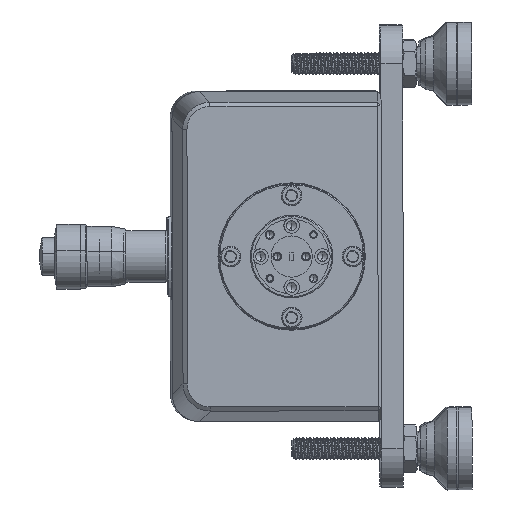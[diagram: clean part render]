
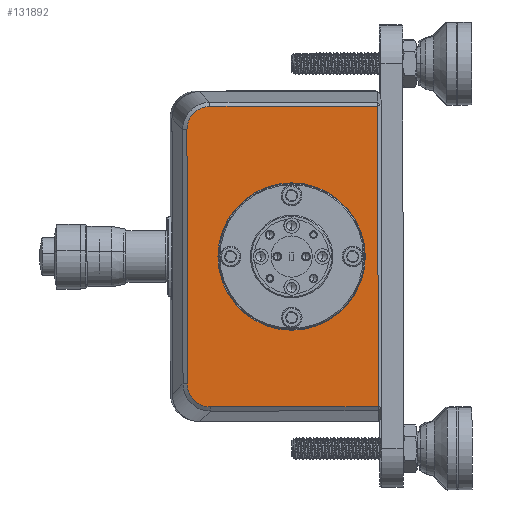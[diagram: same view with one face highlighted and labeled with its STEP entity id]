
A CAD part, left-side view. The second image highlights one B-rep face of the part: STEP entity #131892.
In plain terms, the highlighted planar face has unit normal (-1, -0.002, -0.001).
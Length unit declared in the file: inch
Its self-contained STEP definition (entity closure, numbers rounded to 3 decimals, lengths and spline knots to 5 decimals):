
#8398 = DIRECTION ( 'NONE',  ( -0.001, 0.001, 1. ) ) ;
#10396 = ORIENTED_EDGE ( 'NONE', *, *, #147818, .T. ) ;
#10920 = CARTESIAN_POINT ( 'NONE',  ( -3.34494, -6.84656, 0.04589 ) ) ;
#11293 = B_SPLINE_CURVE_WITH_KNOTS ( 'NONE', 3,
 ( #104573, #47437, #14483, #93341, #82042, #139042, #118108, #106076, #83517, #18946 ),
 .UNSPECIFIED., .F., .F.,
 ( 4, 2, 2, 2, 4 ),
 ( 0., 0.25, 0.5, 0.75, 1. ),
 .UNSPECIFIED. ) ;
#13634 = ORIENTED_EDGE ( 'NONE', *, *, #127069, .T. ) ;
#14483 = CARTESIAN_POINT ( 'NONE',  ( -3.34387, -6.6739, -2.53056 ) ) ;
#18946 = CARTESIAN_POINT ( 'NONE',  ( -3.34347, -6.87759, -2.68423 ) ) ;
#19289 = CARTESIAN_POINT ( 'NONE',  ( -3.34513, -6.67076, -0.10827 ) ) ;
#21706 = DIRECTION ( 'NONE',  ( 1., 0.002, 0.001 ) ) ;
#23336 = CARTESIAN_POINT ( 'NONE',  ( -3.34302, -7.61697, -1.31819 ) ) ;
#27245 = VECTOR ( 'NONE', #101456, 39.37008 ) ;
#32047 = AXIS2_PLACEMENT_3D ( 'NONE', #23336, #54818, #8398 ) ;
#32734 = EDGE_CURVE ( 'NONE', #94500, #85811, #96822, .T. ) ;
#33168 = DIRECTION ( 'NONE',  ( -0.001, 0.001, 1. ) ) ;
#37060 = LINE ( 'NONE', #113401, #128257 ) ;
#38377 = EDGE_CURVE ( 'NONE', #52341, #144860, #89705, .T. ) ;
#43268 = EDGE_CURVE ( 'NONE', #144860, #101138, #103738, .T. ) ;
#43560 = DIRECTION ( 'NONE',  ( 0.001, -0.001, -1. ) ) ;
#43747 = EDGE_LOOP ( 'NONE', ( #117672, #81877 ) ) ;
#44131 = CARTESIAN_POINT ( 'NONE',  ( -3.34323, -7.48197, -1.31837 ) ) ;
#44930 = AXIS2_PLACEMENT_3D ( 'NONE', #44131, #21706, #115501 ) ;
#45407 = CARTESIAN_POINT ( 'NONE',  ( -3.34504, -6.76862, 0.01956 ) ) ;
#46759 = DIRECTION ( 'NONE',  ( 0.002, -1., 0.001 ) ) ;
#47437 = CARTESIAN_POINT ( 'NONE',  ( -3.34389, -6.66843, -2.50307 ) ) ;
#49179 = EDGE_CURVE ( 'NONE', #85811, #94500, #56893, .T. ) ;
#50260 = CARTESIAN_POINT ( 'NONE',  ( -3.34109, -8.40374, -2.68225 ) ) ;
#52341 = VERTEX_POINT ( 'NONE', #91468 ) ;
#54250 = CARTESIAN_POINT ( 'NONE',  ( -3.34391, -6.6684, -2.47558 ) ) ;
#54517 = VERTEX_POINT ( 'NONE', #80170 ) ;
#54818 = DIRECTION ( 'NONE',  ( -1., -0.002, -0.001 ) ) ;
#55090 = CARTESIAN_POINT ( 'NONE',  ( -3.34252, -7.48374, -2.68344 ) ) ;
#56654 = CARTESIAN_POINT ( 'NONE',  ( -3.34498, -6.81907, 0.04042 ) ) ;
#56893 = CIRCLE ( 'NONE', #80865, 0.67 ) ;
#63237 = DIRECTION ( 'NONE',  ( -1., -0.002, -0.001 ) ) ;
#65026 = CARTESIAN_POINT ( 'NONE',  ( -3.34512, -6.66536, -0.13572 ) ) ;
#65234 = FACE_OUTER_BOUND ( 'NONE', #83382, .T. ) ;
#73733 = ORIENTED_EDGE ( 'NONE', *, *, #38377, .T. ) ;
#78544 = CARTESIAN_POINT ( 'NONE',  ( -3.34267, -7.61784, -1.98819 ) ) ;
#80170 = CARTESIAN_POINT ( 'NONE',  ( -3.34511, -6.6654, -0.16327 ) ) ;
#80865 = AXIS2_PLACEMENT_3D ( 'NONE', #144935, #63237, #112012 ) ;
#81877 = ORIENTED_EDGE ( 'NONE', *, *, #32734, .F. ) ;
#82042 = CARTESIAN_POINT ( 'NONE',  ( -3.34377, -6.71028, -2.60422 ) ) ;
#83382 = EDGE_LOOP ( 'NONE', ( #99664, #73733, #127256, #121610, #10396, #13634 ) ) ;
#83517 = CARTESIAN_POINT ( 'NONE',  ( -3.34351, -6.85004, -2.68427 ) ) ;
#84464 = CARTESIAN_POINT ( 'NONE',  ( -3.34251, -8.4002, 0.0479 ) ) ;
#85811 = VERTEX_POINT ( 'NONE', #95465 ) ;
#89694 = VECTOR ( 'NONE', #33168, 39.37008 ) ;
#89705 = LINE ( 'NONE', #55090, #119684 ) ;
#91256 = CARTESIAN_POINT ( 'NONE',  ( -3.34511, -6.70695, -0.03451 ) ) ;
#91468 = CARTESIAN_POINT ( 'NONE',  ( -3.34347, -6.87759, -2.68423 ) ) ;
#93341 = CARTESIAN_POINT ( 'NONE',  ( -3.34381, -6.69476, -2.58101 ) ) ;
#94500 = VERTEX_POINT ( 'NONE', #78544 ) ;
#95465 = CARTESIAN_POINT ( 'NONE',  ( -3.34337, -7.6161, -0.64819 ) ) ;
#96822 = CIRCLE ( 'NONE', #32047, 0.67 ) ;
#99664 = ORIENTED_EDGE ( 'NONE', *, *, #102089, .T. ) ;
#101138 = VERTEX_POINT ( 'NONE', #84464 ) ;
#101310 = VERTEX_POINT ( 'NONE', #54250 ) ;
#101456 = DIRECTION ( 'NONE',  ( -0.002, 1., -0.001 ) ) ;
#102089 = EDGE_CURVE ( 'NONE', #101310, #52341, #11293, .T. ) ;
#102163 = LINE ( 'NONE', #147783, #27245 ) ;
#102225 = EDGE_CURVE ( 'NONE', #101138, #105231, #102163, .T. ) ;
#103738 = LINE ( 'NONE', #147844, #89694 ) ;
#104573 = CARTESIAN_POINT ( 'NONE',  ( -3.34391, -6.6684, -2.47558 ) ) ;
#105231 = VERTEX_POINT ( 'NONE', #138720 ) ;
#106076 = CARTESIAN_POINT ( 'NONE',  ( -3.34356, -6.82259, -2.67887 ) ) ;
#110846 = CARTESIAN_POINT ( 'NONE',  ( -3.34511, -6.6654, -0.16327 ) ) ;
#111768 = FACE_BOUND ( 'NONE', #43747, .T. ) ;
#112012 = DIRECTION ( 'NONE',  ( -0.001, 0.001, 1. ) ) ;
#113401 = CARTESIAN_POINT ( 'NONE',  ( -3.34451, -6.6669, -1.31942 ) ) ;
#115501 = DIRECTION ( 'NONE',  ( 0.001, -0.001, -1. ) ) ;
#116830 = B_SPLINE_CURVE_WITH_KNOTS ( 'NONE', 3,
 ( #125055, #10920, #56654, #45407, #134087, #91256, #122151, #19289, #65026, #110846 ),
 .UNSPECIFIED., .F., .F.,
 ( 4, 2, 2, 2, 4 ),
 ( 0., 0.25, 0.5, 0.75, 1. ),
 .UNSPECIFIED. ) ;
#117672 = ORIENTED_EDGE ( 'NONE', *, *, #49179, .F. ) ;
#118108 = CARTESIAN_POINT ( 'NONE',  ( -3.34365, -6.77209, -2.65813 ) ) ;
#119684 = VECTOR ( 'NONE', #46759, 39.37008 ) ;
#121610 = ORIENTED_EDGE ( 'NONE', *, *, #102225, .T. ) ;
#122151 = CARTESIAN_POINT ( 'NONE',  ( -3.34512, -6.6915, -0.05777 ) ) ;
#125055 = CARTESIAN_POINT ( 'NONE',  ( -3.34489, -6.87405, 0.04592 ) ) ;
#127069 = EDGE_CURVE ( 'NONE', #54517, #101310, #37060, .T. ) ;
#127256 = ORIENTED_EDGE ( 'NONE', *, *, #43268, .T. ) ;
#128257 = VECTOR ( 'NONE', #43560, 39.37008 ) ;
#131892 = ADVANCED_FACE ( 'NONE', ( #65234, #111768 ), #135030, .F. ) ;
#134087 = CARTESIAN_POINT ( 'NONE',  ( -3.34507, -6.74541, 0.00403 ) ) ;
#135030 = PLANE ( 'NONE',  #44930 ) ;
#138720 = CARTESIAN_POINT ( 'NONE',  ( -3.34489, -6.87405, 0.04592 ) ) ;
#139042 = CARTESIAN_POINT ( 'NONE',  ( -3.34369, -6.74883, -2.64268 ) ) ;
#144860 = VERTEX_POINT ( 'NONE', #50260 ) ;
#144935 = CARTESIAN_POINT ( 'NONE',  ( -3.34302, -7.61697, -1.31819 ) ) ;
#147783 = CARTESIAN_POINT ( 'NONE',  ( -3.34394, -7.4802, 0.04671 ) ) ;
#147818 = EDGE_CURVE ( 'NONE', #105231, #54517, #116830, .T. ) ;
#147844 = CARTESIAN_POINT ( 'NONE',  ( -3.3418, -8.40197, -1.31717 ) ) ;
